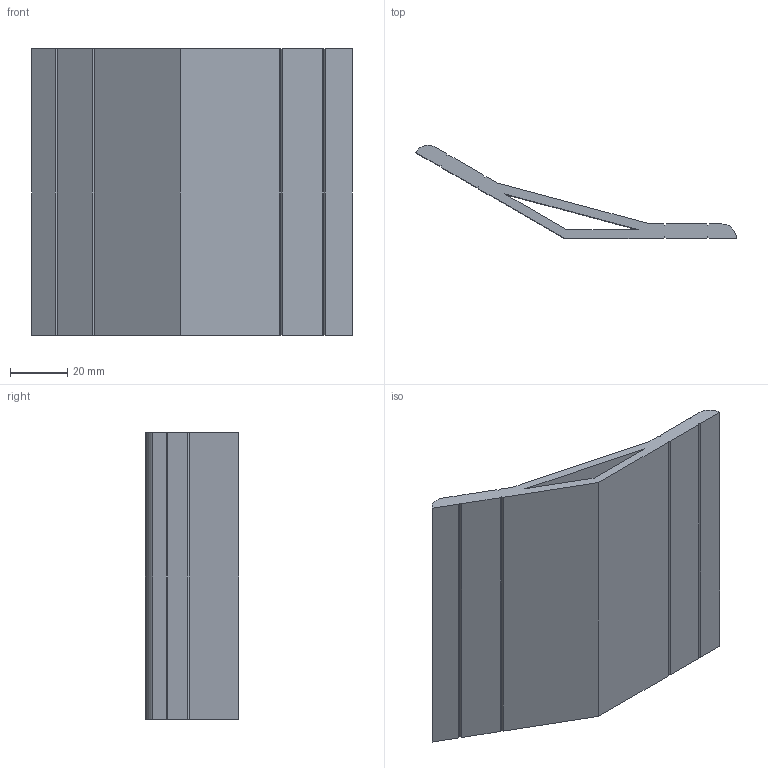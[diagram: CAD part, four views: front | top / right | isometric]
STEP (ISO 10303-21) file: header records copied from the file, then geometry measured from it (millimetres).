
FILE_DESCRIPTION (( 'STEP AP203' ), '1' );
FILE_NAME ('WA60150.STEP', '2024-02-19T12:00:35', ( '' ), ( '' ), 'SwSTEP 2.0', 'SolidWorks 2022', '' );
FILE_SCHEMA (( 'CONFIG_CONTROL_DESIGN' ));
Length unit declared in the file: millimetre
Products named in the file (1): WA60150
Bounding box: 111.96 x 32.5 x 100 mm (x, y, z)
Volume: 62868.4 mm3; surface area: 35526.4 mm2
Topology: 1 solids, 1 shells, 36 faces, 102 edges, 68 vertices
Faces by surface type: plane 34, cylinder 2
Entity records: 1231 total; most frequent: CARTESIAN_POINT 207, ORIENTED_EDGE 204, DIRECTION 180, EDGE_CURVE 102, LINE 98, VECTOR 98, VERTEX_POINT 68, AXIS2_PLACEMENT_3D 41
